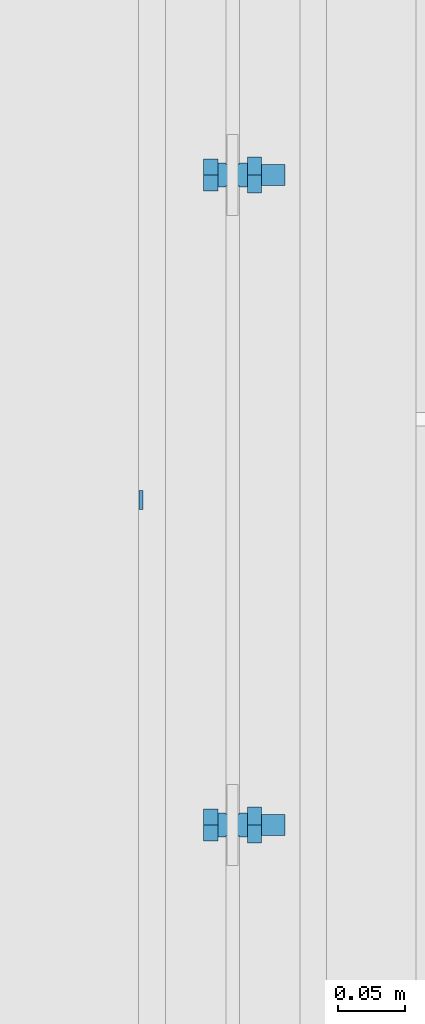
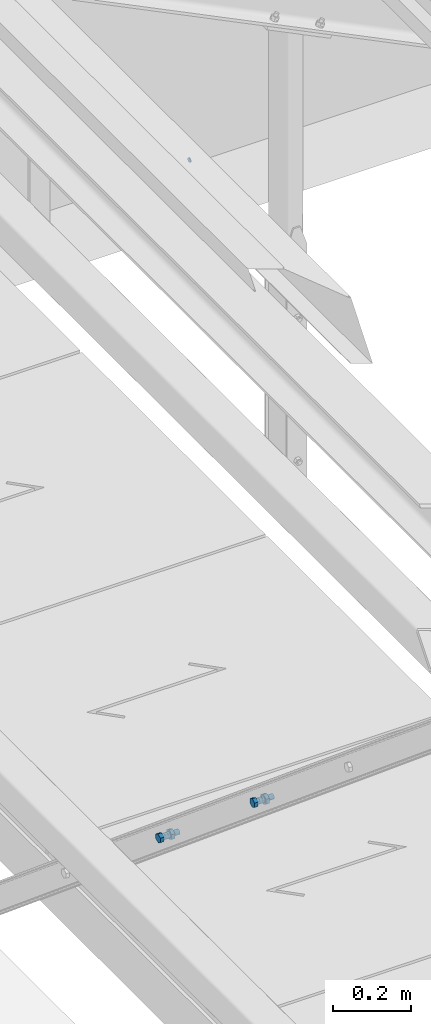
# One storey, part 311 of 362: 3 mechanical fasteners.
"""IFC2X3 building model written with IfcOpenShell, lengths in millimetres."""

from ifc_helpers import new_model, si_unit, frame, origin_with_axes, origin_2d_with_axis, place, context, subcontext, project, spatial, polyline, circle, outline, extrude, source, transform, mapped, material, type_object, element, save


model = new_model("IFC2X3")

# Units and contexts
model_context = context("Model", 3, precision=1e-05, world=origin_with_axes())
body_context = subcontext(model_context, "Body", "Model", "MODEL_VIEW")
ifc_project = project(units=[si_unit("LENGTHUNIT", "METRE", prefix="MILLI"), si_unit("AREAUNIT", "SQUARE_METRE"), si_unit("VOLUMEUNIT", "CUBIC_METRE"), si_unit("MASSUNIT", "GRAM", prefix="KILO"), si_unit("TIMEUNIT", "SECOND"), si_unit("PLANEANGLEUNIT", "RADIAN"), si_unit("SOLIDANGLEUNIT", "STERADIAN"), si_unit("THERMODYNAMICTEMPERATUREUNIT", "DEGREE_CELSIUS"), si_unit("LUMINOUSINTENSITYUNIT", "LUMEN")], contexts=[model_context])

# Site, building, storey
site_placement = place(None, origin_with_axes())
site = spatial("IfcSite", under=ifc_project, at=site_placement, Name="Undefined", CompositionType="ELEMENT")
building_placement = place(site_placement, origin_with_axes())
building = spatial("IfcBuilding", under=site, at=building_placement, Name="Undefined", CompositionType="ELEMENT")
storey_placement = place(building_placement, origin_with_axes())
storey = spatial("IfcBuildingStorey", under=building, at=storey_placement, Name="Undefined", CompositionType="ELEMENT", Elevation=0.0)

# Mechanical fasteners
ifc_material_1 = material(Name="6.8")
mechanical_fastener_type = type_object("IfcMechanicalFastenerType", Name="Bolt assembly")
shared_shape_1 = source(origin_with_axes(), body_context, "Body", "SweptSolid", [
    extrude(circle(Radius=7.0, at=origin_2d_with_axis()), frame((0.0, 0.0, 0.0), z_axis=(0.0, 1.0, 0.0), x_axis=(1.0, 0.0, 0.0)), (0.0, 0.0, 1.0), 3.1),
])
mechanical_fastener_placement = place(storey_placement, frame((34213.4999989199, 1900.000159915, 10920.8421014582), z_axis=(0.0, -1.0, 0.0), x_axis=(0.0, 0.0, 1.0)))
element("IfcMechanicalFastener", 1, at=mechanical_fastener_placement, inside=storey, type_object=mechanical_fastener_type, material=ifc_material_1, Name="Bolt assembly", NominalDiameter=12.0, NominalLength=3.0, context=body_context, shape_type="MappedRepresentation", body=[
    mapped(shared_shape_1, transform((0.0, 0.0, 0.0))),
])
ifc_material_2 = material(Name="8.8-SB-ZINGUE")
shared_shape_2 = source(origin_with_axes(), body_context, "Body", "SweptSolid", [
    extrude(circle(Radius=9.0, at=origin_2d_with_axis()), frame((0.0, -10.9000000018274, 0.0), z_axis=(0.0, 1.0, 0.0), x_axis=(1.0, 0.0, 0.0)), (0.0, 0.0, 1.0), 6.0),
    extrude(circle(Radius=9.0, at=origin_2d_with_axis()), frame((0.0, 4.9000000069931, 0.0), z_axis=(0.0, 1.0, 0.0), x_axis=(1.0, 0.0, 0.0)), (0.0, 0.0, 1.0), 6.1),
    extrude(circle(Radius=9.0, at=origin_2d_with_axis()), frame((0.0, -3.99999923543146, 0.0), z_axis=(0.0, 1.0, 0.0), x_axis=(1.0, 0.0, 0.0)), (0.0, 0.0, 1.0), 8.0),
    extrude(outline(polyline([(13.85640646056, 0.0), (6.92820323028, 12.0000000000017), (-6.92820323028, 12.0000000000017), (-13.85640646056, 0.0), (-6.92820323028, -12.0000000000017), (6.92820323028, -12.0000000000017), (13.85640646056, 0.0)])), frame((0.0, -21.5600000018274, 0.0), z_axis=(0.0, 1.0, 0.0), x_axis=(1.0, 0.0, 0.0)), (0.0, 0.0, 1.0), 10.56),
    extrude(circle(Radius=8.0, at=origin_2d_with_axis()), frame((0.0, -11.0000000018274, 0.0), z_axis=(0.0, 1.0, 0.0), x_axis=(1.0, 0.0, 0.0)), (0.0, 0.0, 1.0), 50.0),
    extrude(outline(polyline([(15.3344231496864, 0.0), (7.6672115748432, 13.2800000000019), (-7.6672115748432, 13.2800000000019), (-15.3344231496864, 0.0), (-7.6672115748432, -13.2800000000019), (7.6672115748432, -13.2800000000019), (15.3344231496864, 0.0)])), frame((0.0, 11.0000000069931, 0.0), z_axis=(0.0, 1.0, 0.0), x_axis=(1.0, 0.0, 0.0)), (0.0, 0.0, 1.0), 10.56),
])
for number, where, z_axis, x_axis, name in (
    (2, (34280.0, 1658.1816790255, 9038.42090610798), (0.0, 1.0, 0.0), (0.0, 0.0, 1.0), "Bolt assembly"),
    (3, (34280.0, 2141.82384826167, 8634.57910828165), (0.0, 1.0, 0.0), (0.0, 0.0, 1.0), "Bolt assembly"),
):
    element("IfcMechanicalFastener", number, at=place(storey_placement, frame(where, z_axis=z_axis, x_axis=x_axis)), inside=storey, type_object=mechanical_fastener_type, material=ifc_material_2, Name=name, NominalDiameter=16.0, NominalLength=50.0, context=body_context, shape_type="MappedRepresentation", body=[
        mapped(shared_shape_2, transform((0.0, 0.0, 0.0))),
    ])

save(model, "model.ifc")
